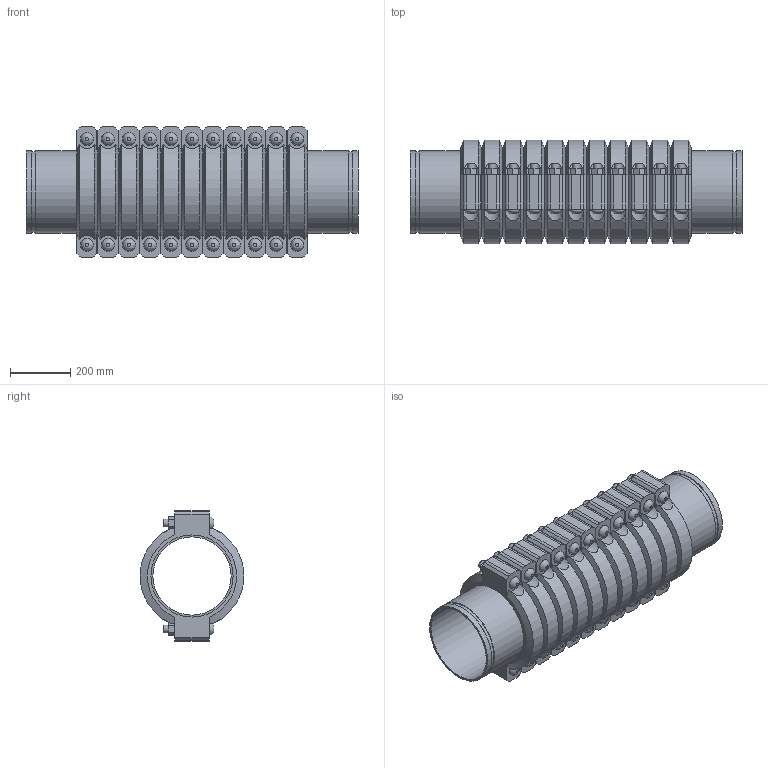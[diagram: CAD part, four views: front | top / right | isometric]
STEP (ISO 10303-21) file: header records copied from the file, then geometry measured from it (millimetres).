
FILE_DESCRIPTION(/* description */ ('VIC EXPANSION JOINT 11 COUPLINGS COMPRESSED STYLE 155 (OGS)','CAx-IF Rec.Pracs.---Representation and Presentation of Product Manufacturing Information (PMI)---4.0---2014-10-13'),/* implementation_level */ '2;1');
FILE_NAME(/* name */ 'C:\Users\kkamble\AppData\Roaming\Autodesk\ApplicationPlugins\Victaulic.Temp\A956\Victaulic_IPS_Expansion Joint_Compressed_11 Couplings_Style 155 (OGS)_10 (250).stp',/* time_stamp */ '2021-06-27T00:19:37+02:00',/* author */ ('kkamble'),/* organization */ ('Victaulic'),/* preprocessor_version */ 'ST-DEVELOPER v17.2',/* originating_system */ 'Autodesk Inventor 2019',/* authorisation */ '');
FILE_SCHEMA (('AP242_MANAGED_MODEL_BASED_3D_ENGINEERING_MIM_LF { 1 0 10303 442 1 1 4 }'));
Length unit declared in the file: inch
Products named in the file (4): 155-10.0; Nipple-10.0; Nipple-10.0_1; 077-11 Coup-10.0
Assembly tree (23 placements, depth 2):
  155-10.0
    Nipple-10.0  x2
    Nipple-10.0_1  x10
    077-11 Coup-10.0  x11
Bounding box: 1104.9 x 344.9 x 435.1 mm (x, y, z)
Volume: 37385165.5 mm3; surface area: 5139330.5 mm2
Topology: 23 solids, 45 shells, 815 faces, 1955 edges, 1366 vertices
Faces by surface type: plane 468, cylinder 281, cone 44, bspline 22
Full cylindrical faces by diameter (mm): 25.4 x44, 27.432 x22, 260.35 x12, 264.16 x11, 268.275 x24, 273.05 x58
Entity records: 3178 total; most frequent: CARTESIAN_POINT 687, DIRECTION 501, ORIENTED_EDGE 410, AXIS2_PLACEMENT_3D 206, EDGE_CURVE 205, VERTEX_POINT 146, EDGE_LOOP 111, CIRCLE 96
